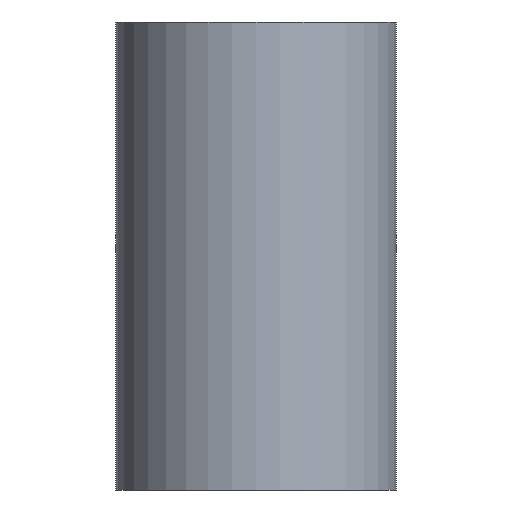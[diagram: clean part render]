
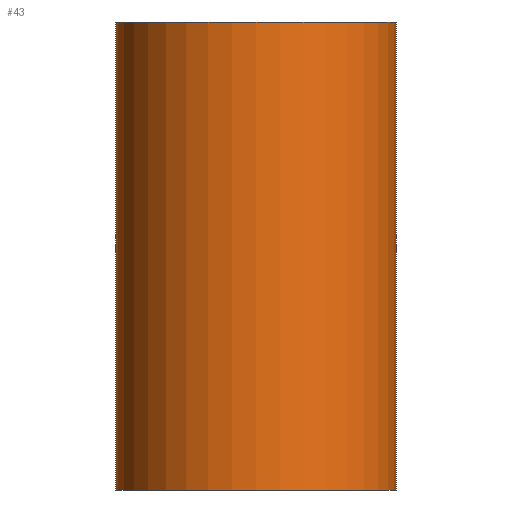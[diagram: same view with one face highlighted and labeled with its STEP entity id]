
A CAD part, front view. The second image highlights one B-rep face of the part: STEP entity #43.
In plain terms, the highlighted cylindrical face has radius 3.9 mm (diameter 7.8 mm), a partial arc.
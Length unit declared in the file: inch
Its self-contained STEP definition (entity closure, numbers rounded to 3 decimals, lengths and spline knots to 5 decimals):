
#1 = VECTOR ( 'NONE', #244, 39.37008 ) ;
#4 = DIRECTION ( 'NONE',  ( 1., 0., 0. ) ) ;
#9 = VERTEX_POINT ( 'NONE', #241 ) ;
#25 = CARTESIAN_POINT ( 'NONE',  ( 0., 0., 0.25591 ) ) ;
#27 = FACE_OUTER_BOUND ( 'NONE', #131, .T. ) ;
#31 = DIRECTION ( 'NONE',  ( 1., 0., 0. ) ) ;
#37 = CYLINDRICAL_SURFACE ( 'NONE', #119, 0.15354 ) ;
#43 = ADVANCED_FACE ( 'NONE', ( #27 ), #37, .T. ) ;
#57 = CARTESIAN_POINT ( 'NONE',  ( -0.15354, 0., 0.25591 ) ) ;
#60 = ORIENTED_EDGE ( 'NONE', *, *, #87, .F. ) ;
#61 = CARTESIAN_POINT ( 'NONE',  ( 0.15354, 0., 0.25591 ) ) ;
#65 = CARTESIAN_POINT ( 'NONE',  ( 0., 0., -0.25591 ) ) ;
#71 = VERTEX_POINT ( 'NONE', #192 ) ;
#83 = DIRECTION ( 'NONE',  ( 0., 0., 1. ) ) ;
#87 = EDGE_CURVE ( 'NONE', #118, #9, #153, .T. ) ;
#94 = ORIENTED_EDGE ( 'NONE', *, *, #224, .T. ) ;
#98 = DIRECTION ( 'NONE',  ( -1., 0., 0. ) ) ;
#100 = VERTEX_POINT ( 'NONE', #123 ) ;
#117 = ORIENTED_EDGE ( 'NONE', *, *, #238, .T. ) ;
#118 = VERTEX_POINT ( 'NONE', #57 ) ;
#119 = AXIS2_PLACEMENT_3D ( 'NONE', #25, #138, #98 ) ;
#123 = CARTESIAN_POINT ( 'NONE',  ( 0.15354, 0., -0.25591 ) ) ;
#127 = DIRECTION ( 'NONE',  ( 0., 0., -1. ) ) ;
#131 = EDGE_LOOP ( 'NONE', ( #222, #60, #94, #117 ) ) ;
#138 = DIRECTION ( 'NONE',  ( 0., 0., -1. ) ) ;
#153 = CIRCLE ( 'NONE', #210, 0.15354 ) ;
#159 = DIRECTION ( 'NONE',  ( 0., 0., 1. ) ) ;
#167 = EDGE_CURVE ( 'NONE', #9, #100, #176, .T. ) ;
#174 = VECTOR ( 'NONE', #127, 39.37008 ) ;
#176 = LINE ( 'NONE', #61, #174 ) ;
#180 = CARTESIAN_POINT ( 'NONE',  ( 0., 0., 0.25591 ) ) ;
#192 = CARTESIAN_POINT ( 'NONE',  ( -0.15354, 0., -0.25591 ) ) ;
#194 = CARTESIAN_POINT ( 'NONE',  ( -0.15354, 0., 0.25591 ) ) ;
#210 = AXIS2_PLACEMENT_3D ( 'NONE', #180, #159, #4 ) ;
#217 = LINE ( 'NONE', #194, #1 ) ;
#222 = ORIENTED_EDGE ( 'NONE', *, *, #167, .F. ) ;
#224 = EDGE_CURVE ( 'NONE', #118, #71, #217, .T. ) ;
#235 = CIRCLE ( 'NONE', #250, 0.15354 ) ;
#238 = EDGE_CURVE ( 'NONE', #71, #100, #235, .T. ) ;
#241 = CARTESIAN_POINT ( 'NONE',  ( 0.15354, 0., 0.25591 ) ) ;
#244 = DIRECTION ( 'NONE',  ( 0., 0., -1. ) ) ;
#250 = AXIS2_PLACEMENT_3D ( 'NONE', #65, #83, #31 ) ;
